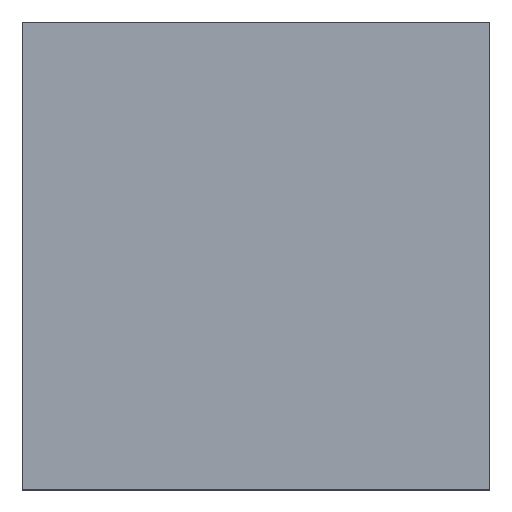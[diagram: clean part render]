
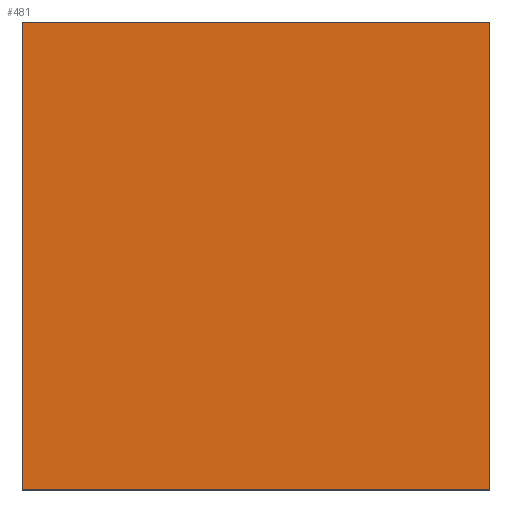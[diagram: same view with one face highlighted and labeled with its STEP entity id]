
A CAD part, top view. The second image highlights one B-rep face of the part: STEP entity #481.
In plain terms, the highlighted planar face has unit normal (0, 0, 1).
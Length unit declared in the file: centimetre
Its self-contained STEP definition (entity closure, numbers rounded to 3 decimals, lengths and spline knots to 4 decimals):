
#20 = VECTOR ( 'NONE', #686, 100. ) ;
#64 = ORIENTED_EDGE ( 'NONE', *, *, #539, .T. ) ;
#106 = CARTESIAN_POINT ( 'NONE',  ( 0., 1000., 1000. ) ) ;
#109 = LINE ( 'NONE', #553, #625 ) ;
#141 = EDGE_CURVE ( 'NONE', #316, #494, #546, .T. ) ;
#200 = CARTESIAN_POINT ( 'NONE',  ( 0., 0., 1000. ) ) ;
#225 = DIRECTION ( 'NONE',  ( 1., 0., 0. ) ) ;
#232 = FACE_OUTER_BOUND ( 'NONE', #647, .T. ) ;
#237 = EDGE_CURVE ( 'NONE', #434, #316, #455, .T. ) ;
#316 = VERTEX_POINT ( 'NONE', #650 ) ;
#320 = VECTOR ( 'NONE', #551, 100. ) ;
#330 = ORIENTED_EDGE ( 'NONE', *, *, #601, .T. ) ;
#411 = ORIENTED_EDGE ( 'NONE', *, *, #141, .T. ) ;
#434 = VERTEX_POINT ( 'NONE', #597 ) ;
#455 = LINE ( 'NONE', #702, #612 ) ;
#473 = AXIS2_PLACEMENT_3D ( 'NONE', #622, #670, #225 ) ;
#481 = ADVANCED_FACE ( 'NONE', ( #232 ), #498, .T. ) ;
#494 = VERTEX_POINT ( 'NONE', #505 ) ;
#498 = PLANE ( 'NONE',  #473 ) ;
#505 = CARTESIAN_POINT ( 'NONE',  ( 0., 0., 1000. ) ) ;
#539 = EDGE_CURVE ( 'NONE', #567, #434, #109, .T. ) ;
#546 = LINE ( 'NONE', #106, #320 ) ;
#551 = DIRECTION ( 'NONE',  ( 0., -1., 0. ) ) ;
#553 = CARTESIAN_POINT ( 'NONE',  ( 1000., 1000., 1000. ) ) ;
#567 = VERTEX_POINT ( 'NONE', #649 ) ;
#590 = DIRECTION ( 'NONE',  ( -1., 0., 0. ) ) ;
#597 = CARTESIAN_POINT ( 'NONE',  ( 1000., 1000., 1000. ) ) ;
#601 = EDGE_CURVE ( 'NONE', #494, #567, #631, .T. ) ;
#612 = VECTOR ( 'NONE', #590, 100. ) ;
#622 = CARTESIAN_POINT ( 'NONE',  ( 0., 0., 1000. ) ) ;
#625 = VECTOR ( 'NONE', #668, 100. ) ;
#631 = LINE ( 'NONE', #200, #20 ) ;
#647 = EDGE_LOOP ( 'NONE', ( #411, #330, #64, #724 ) ) ;
#649 = CARTESIAN_POINT ( 'NONE',  ( 1000., 0., 1000. ) ) ;
#650 = CARTESIAN_POINT ( 'NONE',  ( 0., 1000., 1000. ) ) ;
#668 = DIRECTION ( 'NONE',  ( 0., 1., 0. ) ) ;
#670 = DIRECTION ( 'NONE',  ( 0., 0., 1. ) ) ;
#686 = DIRECTION ( 'NONE',  ( 1., 0., 0. ) ) ;
#702 = CARTESIAN_POINT ( 'NONE',  ( 0., 1000., 1000. ) ) ;
#724 = ORIENTED_EDGE ( 'NONE', *, *, #237, .T. ) ;
